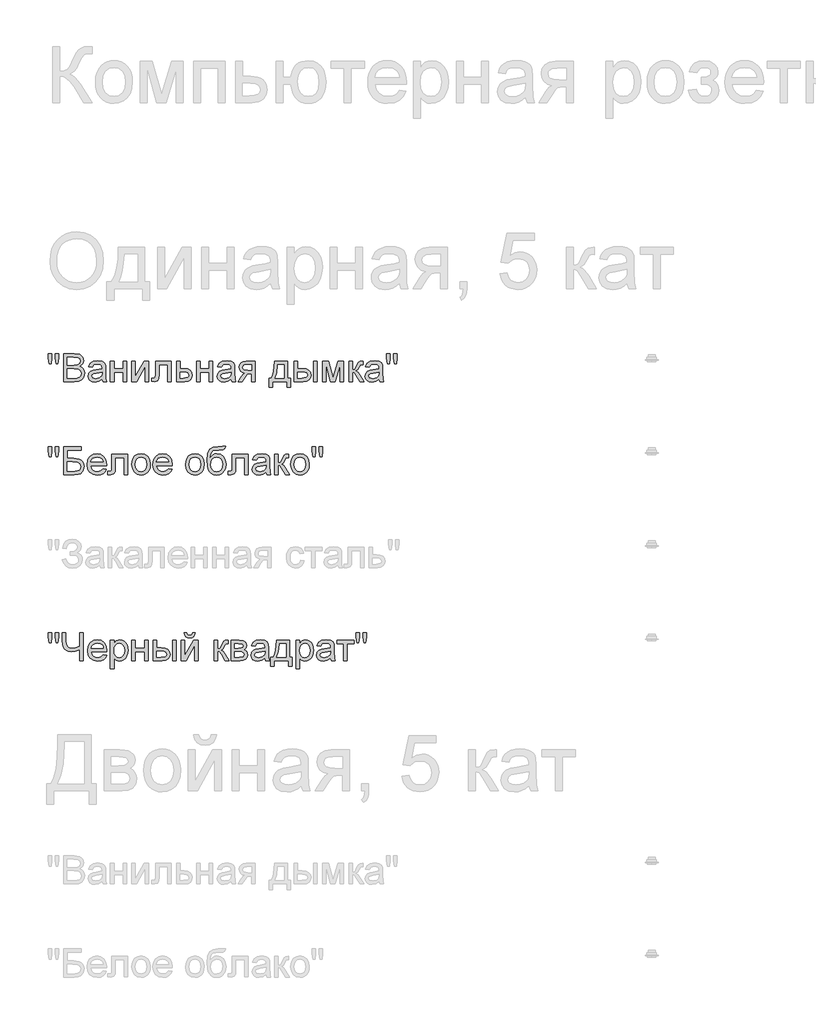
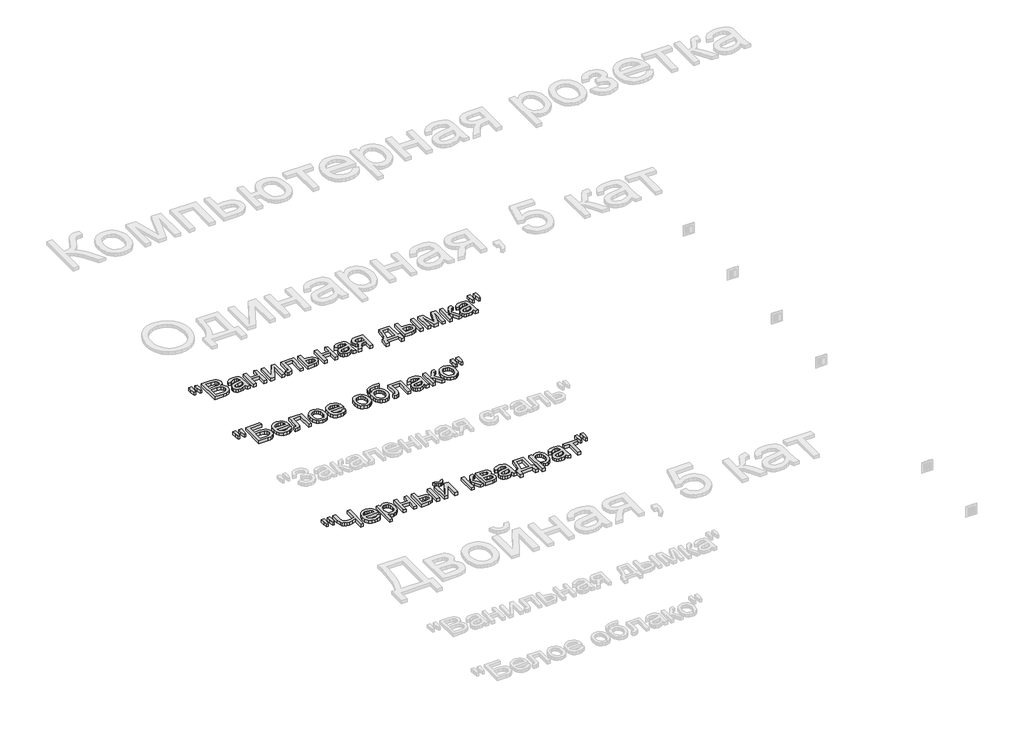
# One storey, part 166 of 168: 3 proxies.
"""IFC4 building model written with IfcOpenShell, lengths in millimetres."""

import ifcopenshell
import ifcopenshell.guid

model = None  # the IFC model being written
_history = None  # IfcOwnerHistory: only IFC2X3 demands one
_inside = {}  # id of a spatial element -> (the spatial element, [elements in it])
_under = {}  # id of a project, library or spatial element -> (it, [spatial elements below it])
_declared = {}  # id of a project -> (the project, [libraries it declares])
_typed = {}  # id of a type object -> (the type object, [elements of that type])
_made_of = {}  # id of a material, layer set ... -> (it, [elements and type objects made of it])


def new_model(schema):
    """Start an empty IFC model of exactly this schema.

    Asked for "IFC4X3", IfcOpenShell would pick the latest addendum, in which some entities
    have other attributes; the version numbers below select the first issue.
    IFC2X3 requires an IfcOwnerHistory on every rooted entity: one is made here for all.
    """
    global model, _history
    if schema == "IFC4X3":
        model = ifcopenshell.file(schema_version=(4, 3, 0, 0))
    else:
        model = ifcopenshell.file(schema=schema)
    _inside.clear()
    _under.clear()
    _declared.clear()
    _typed.clear()
    _made_of.clear()
    _history = None
    if model.schema == "IFC2X3":
        org = make("IfcOrganization", Name="unknown")
        user = make(
            "IfcPersonAndOrganization",
            ThePerson=make("IfcPerson", FamilyName="unknown"),
            TheOrganization=org,
        )
        app = make(
            "IfcApplication",
            ApplicationDeveloper=org,
            Version="unknown",
            ApplicationFullName="unknown",
            ApplicationIdentifier="unknown",
        )
        _history = make(
            "IfcOwnerHistory",
            OwningUser=user,
            OwningApplication=app,
            ChangeAction="ADDED",
            CreationDate=0,
        )
    return model


def make(cls, **values):
    """One entity of the class cls with the attributes given. An attribute that is None is left unset."""
    return model.create_entity(
        cls, **{name: value for name, value in values.items() if value is not None}
    )


def rooted(cls, **values):
    """An entity with a GlobalId (a new one), such as an element, a storey or a relation."""
    return make(cls, GlobalId=ifcopenshell.guid.new(), OwnerHistory=_history, **values)


def si_unit(unit_type, name, prefix=None):
    """IfcSIUnit, for example si_unit("LENGTHUNIT", "METRE", prefix="MILLI")."""
    return make("IfcSIUnit", UnitType=unit_type, Prefix=prefix, Name=name)


def assignment(units):
    """IfcUnitAssignment: the units of a project."""
    return None if units is None else make("IfcUnitAssignment", Units=units)


def point(xyz):
    """IfcCartesianPoint."""
    return None if xyz is None else make("IfcCartesianPoint", Coordinates=xyz)


def direction(xyz):
    """IfcDirection."""
    return None if xyz is None else make("IfcDirection", DirectionRatios=xyz)


def frame(location, z_axis=None, x_axis=None):
    """IfcAxis2Placement3D, a coordinate frame: its origin and axes. An axis left out is left unset."""
    return make(
        "IfcAxis2Placement3D",
        Location=point(location),
        Axis=direction(z_axis),
        RefDirection=direction(x_axis),
    )


def origin():
    """The frame at (0, 0, 0) with its axes left unset."""
    return frame((0.0, 0.0, 0.0))


def origin_with_axes():
    """The frame at (0, 0, 0) with the z axis (0, 0, 1) and the x axis (1, 0, 0) written out."""
    return frame((0.0, 0.0, 0.0), z_axis=(0.0, 0.0, 1.0), x_axis=(1.0, 0.0, 0.0))


def place(relative_to, where):
    """IfcLocalPlacement: puts the frame where relative to a parent placement (None: the world)."""
    return make(
        "IfcLocalPlacement", PlacementRelTo=relative_to, RelativePlacement=where
    )


def context(
    kind, dimensions, precision=None, world=None, true_north=None, identifier=None
):
    """IfcGeometricRepresentationContext, for example the 3D "Model" context."""
    return make(
        "IfcGeometricRepresentationContext",
        ContextIdentifier=identifier,
        ContextType=kind,
        CoordinateSpaceDimension=dimensions,
        Precision=precision,
        WorldCoordinateSystem=world,
        TrueNorth=true_north,
    )


def project(units=None, contexts=None):
    """IfcProject with its units and contexts."""
    return rooted(
        "IfcProject",
        Name="project",
        RepresentationContexts=contexts,
        UnitsInContext=assignment(units),
    )


def spatial(cls, under=None, at=None, **own):
    """A site, building, storey or space (cls), placed at a placement, below another one or the project."""
    s = rooted(cls, ObjectPlacement=at, **own)
    if under is not None:
        _under.setdefault(under.id(), (under, []))[1].append(s)
    return s


def polyline(points):
    """IfcPolyline through the points."""
    return make("IfcPolyline", Points=[point(p) for p in points])


def outline(outer, holes=None, kind="AREA"):
    """IfcArbitraryClosedProfileDef: a profile drawn as a closed curve; with holes, ...WithVoids."""
    if holes is None:
        return make("IfcArbitraryClosedProfileDef", ProfileType=kind, OuterCurve=outer)
    return make(
        "IfcArbitraryProfileDefWithVoids",
        ProfileType=kind,
        OuterCurve=outer,
        InnerCurves=holes,
    )


def extrude(swept, where, along, depth):
    """IfcExtrudedAreaSolid: the profile swept, set in the frame where, extruded along a direction by depth."""
    return make(
        "IfcExtrudedAreaSolid",
        SweptArea=swept,
        Position=where,
        ExtrudedDirection=direction(along),
        Depth=depth,
    )


def shape(context_of_items, identifier, shape_type, items):
    """IfcShapeRepresentation: the items that make up one representation, for example the "Body"."""
    return make(
        "IfcShapeRepresentation",
        ContextOfItems=context_of_items,
        RepresentationIdentifier=identifier,
        RepresentationType=shape_type,
        Items=items,
    )


def made_of(thing, what):
    """Note that an element or type object is made of a material, layer set ...; save() writes the relation."""
    if what is not None:
        _made_of.setdefault(what.id(), (what, []))[1].append(thing)
    return thing


def element(
    cls,
    number,
    at=None,
    inside=None,
    cuts=None,
    type_object=None,
    material=None,
    context=None,
    identifier="Body",
    shape_type=None,
    held_by="IfcProductDefinitionShape",
    body=None,
    shapes=None,
    **own,
):
    """One element of the class cls, such as IfcWall. Its Tag is "e" and its number.

    at: its placement. inside: the storey or other place that contains it. cuts: it is an
    opening in that element (IfcRelVoidsElement). A single representation is given by context,
    identifier, shape_type and body (its items); several are given by shapes. held_by: the class
    of the entity that holds the representations. save() writes the other relations.
    """
    e = rooted(cls, Tag="e%d" % number, ObjectPlacement=at, **own)
    if body is not None:
        shapes = [shape(context, identifier, shape_type, body)]
    if shapes is not None:
        e.Representation = make(held_by, Representations=shapes)
    if inside is not None:
        _inside.setdefault(inside.id(), (inside, []))[1].append(e)
    if cuts is not None:
        rooted(
            "IfcRelVoidsElement", RelatingBuildingElement=cuts, RelatedOpeningElement=e
        )
    if type_object is not None:
        _typed.setdefault(type_object.id(), (type_object, []))[1].append(e)
    return made_of(e, material)


def aggregate(whole, parts):
    """IfcRelAggregates: a whole, such as a stair, and the parts it consists of."""
    return rooted("IfcRelAggregates", RelatingObject=whole, RelatedObjects=parts)


def save(model, path):
    """Write the relations noted so far, then the file.

    IfcRelAggregates (storeys below a building ...), IfcRelContainedInSpatialStructure (elements
    in a storey), IfcRelDefinesByType, IfcRelAssociatesMaterial and IfcRelDeclares: one each for
    every whole, place, type object, material and project.
    """
    for whole, parts in _under.values():
        aggregate(whole, parts)
    for where, things in _inside.values():
        rooted(
            "IfcRelContainedInSpatialStructure",
            RelatedElements=things,
            RelatingStructure=where,
        )
    for kind, things in _typed.values():
        rooted("IfcRelDefinesByType", RelatedObjects=things, RelatingType=kind)
    for what, things in _made_of.values():
        rooted("IfcRelAssociatesMaterial", RelatedObjects=things, RelatingMaterial=what)
    for by, libraries in _declared.values():
        rooted("IfcRelDeclares", RelatingContext=by, RelatedDefinitions=libraries)
    model.write(path)


model = new_model("IFC4")

# Units and contexts
model_context = context("Model", 3, world=origin())
ifc_project = project(units=[si_unit("LENGTHUNIT", "METRE", prefix="MILLI")], contexts=[model_context])

# Site, building, storey
site = spatial("IfcSite", under=ifc_project)
building = spatial("IfcBuilding", under=site)
storey = spatial("IfcBuildingStorey", under=building, Name="Этаж 01", Elevation=0.0)

# Proxies
placement = place(None, origin())
element("IfcBuildingElementProxy", 1, Name="150", ObjectType="150", at=placement, inside=storey, context=model_context, shape_type="SweptSolid", body=[
    extrude(outline(polyline([(77280.1485789, -6451.873446), (77275.550054, -6422.7739802), (77275.550054, -6397.7212163), (77294.3856121, -6397.7212163), (77294.3856121, -6422.7739802), (77290.2653338, -6451.873446), (77280.1485789, -6451.873446)])), origin_with_axes(), (0.0, 0.0, 1.0), 20.0),
    extrude(outline(polyline([(77317.7093306, -6451.873446), (77313.2211703, -6422.7739802), (77313.2211703, -6397.7212163), (77332.0567284, -6397.7212163), (77332.0567284, -6422.7739802), (77327.6421445, -6451.873446), (77317.7093306, -6451.873446)])), origin_with_axes(), (0.0, 0.0, 1.0), 20.0),
    extrude(outline(polyline([(77357.9556209, -6548.4056816), (77357.9556209, -6397.7212163), (77415.4555767, -6397.7212163), (77443.6169435, -6402.1541944), (77453.0807078, -6407.7781904), (77460.2452096, -6415.7842223), (77466.2600803, -6435.0612389), (77461.2017028, -6452.6643923), (77445.9162059, -6466.0001146), (77456.5893823, -6471.5735269), (77464.4758526, -6480.0532069), (77469.3456905, -6490.8781346), (77470.9689698, -6503.48729), (77466.5359918, -6523.7391938), (77455.5547142, -6538.160168), (77439.1655713, -6545.8121135), (77415.0141183, -6548.4056816), (77357.9556209, -6548.4056816)]), holes=[polyline([(77376.791179, -6458.9367803), (77411.1881456, -6458.9367803), (77431.2745025, -6457.3180996), (77443.3594261, -6450.3467358), (77447.4245221, -6438.0778712), (77443.6353376, -6425.7906126), (77432.7828187, -6418.5249432), (77408.5761834, -6416.5567745), (77376.791179, -6416.5567745), (77376.791179, -6458.9367803)]), polyline([(77376.791179, -6529.5701234), (77415.4187885, -6529.5701234), (77429.3983043, -6528.8343594), (77441.2257105, -6524.7324752), (77449.061597, -6516.3631598), (77452.1334117, -6503.671231), (77448.5281681, -6489.0295275), (77436.8479148, -6480.2923302), (77413.5793786, -6477.7723385), (77376.791179, -6477.7723385), (77376.791179, -6529.5701234)])]), origin_with_axes(), (0.0, 0.0, 1.0), 20.0),
    extrude(outline(polyline([(77565.1467606, -6534.279013), (77546.8814195, -6547.0445182), (77526.7030921, -6550.7601263), (77510.9623412, -6548.5252432), (77499.3510657, -6541.8205939), (77492.1911624, -6531.6394596), (77489.804528, -6518.975122), (77493.4097715, -6504.0759012), (77502.8827329, -6493.2601705), (77516.0713024, -6487.079753), (77532.3684748, -6484.2470616), (77565.036396, -6477.7723385), (77565.1467606, -6473.5784838), (77563.8499765, -6465.1723802), (77559.9596244, -6459.6725443), (77551.2592153, -6455.5890542), (77539.1375035, -6454.2278908), (77520.0812162, -6457.8515285), (77510.9945309, -6470.7090042), (77492.1589727, -6468.3545594), (77500.3075589, -6449.9604597), (77516.7150959, -6439.1815172), (77541.5655247, -6435.3923327), (77564.3926025, -6438.7400588), (77577.2868664, -6447.1461624), (77583.0626137, -6459.9300617), (77583.9823187, -6476.4111751), (77583.9823187, -6499.8452582), (77584.9388119, -6532.5683617), (77588.6912083, -6548.4056816), (77569.8556501, -6548.4056816), (77565.1467606, -6534.279013)]), holes=[polyline([(77565.1467606, -6496.6078966), (77534.7597078, -6502.383644), (77518.5545059, -6505.4370645), (77511.2152601, -6510.4034715), (77508.6400861, -6517.6507468), (77514.2502865, -6527.841078), (77530.7130058, -6531.9245682), (77549.7692932, -6527.4180137), (77562.0565518, -6516.5103126), (77565.036396, -6501.9421856), (77565.1467606, -6496.6078966)])]), origin_with_axes(), (0.0, 0.0, 1.0), 20.0),
    extrude(outline(polyline([(77609.8812112, -6437.7467774), (77628.7167693, -6437.7467774), (77628.7167693, -6480.1267833), (77678.1601095, -6480.1267833), (77678.1601095, -6437.7467774), (77696.9956676, -6437.7467774), (77696.9956676, -6548.4056816), (77678.1601095, -6548.4056816), (77678.1601095, -6498.9623414), (77628.7167693, -6498.9623414), (77628.7167693, -6548.4056816), (77609.8812112, -6548.4056816), (77609.8812112, -6437.7467774)])), origin_with_axes(), (0.0, 0.0, 1.0), 20.0),
    extrude(outline(polyline([(77725.2490049, -6437.7467774), (77744.084563, -6437.7467774), (77744.084563, -6522.1389071), (77790.364118, -6437.7467774), (77814.7179061, -6437.7467774), (77814.7179061, -6548.4056816), (77795.8823479, -6548.4056816), (77795.8823479, -6464.5285867), (77749.8970985, -6548.4056816), (77725.2490049, -6548.4056816), (77725.2490049, -6437.7467774)])), origin_with_axes(), (0.0, 0.0, 1.0), 20.0),
    extrude(outline(polyline([(77852.3890224, -6437.7467774), (77937.1490341, -6437.7467774), (77937.1490341, -6548.295317), (77918.3134759, -6548.295317), (77918.3134759, -6456.5823356), (77871.2245806, -6456.5823356), (77871.2245806, -6509.3734019), (77869.9553877, -6533.72719), (77862.9840239, -6544.0094917), (77846.5029105, -6548.4056816), (77831.1990195, -6547.4491884), (77831.1990195, -6529.5701234), (77839.6235172, -6529.5701234), (77848.1399854, -6528.4112951), (77851.5428938, -6524.7324752), (77852.3890224, -6508.3065441), (77852.3890224, -6437.7467774)])), origin_with_axes(), (0.0, 0.0, 1.0), 20.0),
    extrude(outline(polyline([(77965.4023713, -6437.7467774), (77984.2379295, -6437.7467774), (77984.2379295, -6477.7723385), (78005.9429672, -6477.7723385), (78024.7601312, -6480.1313818), (78038.6844648, -6487.2085117), (78047.2929034, -6498.433511), (78050.162383, -6513.2361628), (78047.7205663, -6526.7144394), (78040.395116, -6538.0865916), (78027.6985887, -6545.8259091), (78009.1435405, -6548.4056816), (77965.4023713, -6548.4056816), (77965.4023713, -6437.7467774)]), holes=[polyline([(77984.2379295, -6529.5701234), (78001.8226888, -6529.5701234), (78024.539402, -6525.615392), (78029.6299692, -6520.552416), (78031.3268249, -6513.272951), (78026.3052356, -6501.6846682), (78018.2348244, -6497.8770895), (78004.066769, -6496.6078966), (77984.2379295, -6496.6078966), (77984.2379295, -6529.5701234)])]), origin_with_axes(), (0.0, 0.0, 1.0), 20.0),
    extrude(outline(polyline([(78073.7068307, -6437.7467774), (78092.5423889, -6437.7467774), (78092.5423889, -6480.1267833), (78141.985729, -6480.1267833), (78141.985729, -6437.7467774), (78160.8212872, -6437.7467774), (78160.8212872, -6548.4056816), (78141.985729, -6548.4056816), (78141.985729, -6498.9623414), (78092.5423889, -6498.9623414), (78092.5423889, -6548.4056816), (78073.7068307, -6548.4056816), (78073.7068307, -6437.7467774)])), origin_with_axes(), (0.0, 0.0, 1.0), 20.0),
    extrude(outline(polyline([(78259.7079675, -6534.279013), (78241.4426264, -6547.0445182), (78221.264299, -6550.7601263), (78205.5235481, -6548.5252432), (78193.9122726, -6541.8205939), (78186.7523693, -6531.6394596), (78184.3657349, -6518.975122), (78187.9709784, -6504.0759012), (78197.4439398, -6493.2601705), (78210.6325093, -6487.079753), (78226.9296817, -6484.2470616), (78259.5976029, -6477.7723385), (78259.7079675, -6473.5784838), (78258.4111834, -6465.1723802), (78254.5208313, -6459.6725443), (78245.8204221, -6455.5890542), (78233.6987104, -6454.2278908), (78214.6424231, -6457.8515285), (78205.5557378, -6470.7090042), (78186.7201796, -6468.3545594), (78194.8687658, -6449.9604597), (78211.2763028, -6439.1815172), (78236.1267316, -6435.3923327), (78258.9538094, -6438.7400588), (78271.8480733, -6447.1461624), (78277.6238206, -6459.9300617), (78278.5435256, -6476.4111751), (78278.5435256, -6499.8452582), (78279.5000188, -6532.5683617), (78283.2524152, -6548.4056816), (78264.416857, -6548.4056816), (78259.7079675, -6534.279013)]), holes=[polyline([(78259.7079675, -6496.6078966), (78229.3209147, -6502.383644), (78213.1157128, -6505.4370645), (78205.776467, -6510.4034715), (78203.201293, -6517.6507468), (78208.8114934, -6527.841078), (78225.2742127, -6531.9245682), (78244.3305001, -6527.4180137), (78256.6177587, -6516.5103126), (78259.5976029, -6501.9421856), (78259.7079675, -6496.6078966)])]), origin_with_axes(), (0.0, 0.0, 1.0), 20.0),
    extrude(outline(polyline([(78389.2024298, -6437.7467774), (78389.2024298, -6548.4056816), (78370.3668716, -6548.4056816), (78370.3668716, -6506.0256757), (78360.1029639, -6506.0256757), (78346.1234481, -6508.4169087), (78332.9900609, -6524.4933519), (78317.9804755, -6548.4056816), (78296.2018614, -6548.4056816), (78315.1109959, -6518.1657816), (78323.4619172, -6507.3132627), (78331.1506509, -6502.4940086), (78318.2747811, -6498.5484742), (78309.224884, -6491.0528785), (78303.872201, -6481.0832765), (78302.0879733, -6469.7157228), (78304.5251915, -6456.8214589), (78311.8368462, -6446.6127335), (78323.7654199, -6439.9632664), (78340.0533952, -6437.7467774), (78389.2024298, -6437.7467774)]), holes=[polyline([(78370.3668716, -6456.5823356), (78345.5348369, -6456.5823356), (78332.7095509, -6457.672186), (78325.4300859, -6460.9417372), (78320.9235315, -6471.1504626), (78322.583599, -6478.32876), (78327.5638015, -6483.3089625), (78351.0898551, -6487.1901176), (78370.3668716, -6487.1901176), (78370.3668716, -6456.5823356)])]), origin_with_axes(), (0.0, 0.0, 1.0), 20.0),
    extrude(outline(polyline([(78492.7979996, -6437.7467774), (78563.4313427, -6437.7467774), (78563.4313427, -6529.5701234), (78577.5580113, -6529.5701234), (78577.5580113, -6579.0134636), (78558.7224531, -6579.0134636), (78558.7224531, -6548.4056816), (78481.0257758, -6548.4056816), (78481.0257758, -6579.0134636), (78462.1902176, -6579.0134636), (78462.1902176, -6529.5701234), (78473.9624415, -6529.5701234), (78482.5202964, -6514.105284), (78488.5121744, -6493.6464466), (78492.7979996, -6437.7467774)]), holes=[polyline([(78509.279113, -6456.5823356), (78504.864529, -6499.4957703), (78495.1524444, -6529.5701234), (78544.5957845, -6529.5701234), (78544.5957845, -6456.5823356), (78509.279113, -6456.5823356)])]), origin_with_axes(), (0.0, 0.0, 1.0), 20.0),
    extrude(outline(polyline([(78702.3435841, -6437.7467774), (78721.1791422, -6437.7467774), (78721.1791422, -6548.4056816), (78702.3435841, -6548.4056816), (78702.3435841, -6437.7467774)])), origin_with_axes(), (0.0, 0.0, 1.0), 20.0),
    extrude(outline(polyline([(78598.7480142, -6437.7467774), (78617.5835724, -6437.7467774), (78617.5835724, -6477.7723385), (78640.8705027, -6477.7723385), (78660.9982463, -6480.1313818), (78675.9112627, -6487.2085117), (78685.1405023, -6498.433511), (78688.2169154, -6513.2361628), (78685.637143, -6526.7144394), (78677.8978255, -6538.0865916), (78664.4931253, -6545.8259091), (78644.9172046, -6548.4056816), (78598.7480142, -6548.4056816), (78598.7480142, -6437.7467774)]), holes=[polyline([(78617.5835724, -6529.5701234), (78636.9341653, -6529.5701234), (78661.9133528, -6525.615392), (78667.5143562, -6520.552416), (78669.3813573, -6513.272951), (78663.8447333, -6501.6846682), (78654.9649816, -6497.8770895), (78639.3989747, -6496.6078966), (78617.5835724, -6496.6078966), (78617.5835724, -6529.5701234)])]), origin_with_axes(), (0.0, 0.0, 1.0), 20.0),
    extrude(outline(polyline([(78749.4324794, -6437.7467774), (78781.8428832, -6437.7467774), (78806.8220707, -6526.3327619), (78833.7510327, -6437.7467774), (78864.8002731, -6437.7467774), (78864.8002731, -6548.4056816), (78845.964715, -6548.4056816), (78845.964715, -6459.3046623), (78818.8886001, -6548.4056816), (78794.1669301, -6548.4056816), (78768.2680376, -6455.0372312), (78768.2680376, -6548.4056816), (78749.4324794, -6548.4056816), (78749.4324794, -6437.7467774)])), origin_with_axes(), (0.0, 0.0, 1.0), 20.0),
    extrude(outline(polyline([(78893.0536104, -6437.7467774), (78911.8891685, -6437.7467774), (78911.8891685, -6484.8356728), (78924.5075209, -6481.4511584), (78934.845005, -6461.7326835), (78943.4350496, -6444.7181412), (78951.0134187, -6439.1815172), (78964.7905994, -6437.7467774), (78968.395843, -6437.7467774), (78968.395843, -6456.6927002), (78963.3190714, -6456.5823356), (78954.1220216, -6458.5688983), (78947.6472984, -6470.9665216), (78940.0505352, -6484.3758203), (78929.4003515, -6490.9425139), (78941.2829399, -6498.2725627), (78952.9447992, -6513.7144094), (78973.1047325, -6548.4056816), (78951.6940004, -6548.4056816), (78931.9387373, -6514.4501734), (78922.0059234, -6500.0843815), (78911.8891685, -6496.6078966), (78911.8891685, -6548.4056816), (78893.0536104, -6548.4056816), (78893.0536104, -6437.7467774)])), origin_with_axes(), (0.0, 0.0, 1.0), 20.0),
    extrude(outline(polyline([(79055.5102994, -6534.279013), (79037.2449584, -6547.0445182), (79017.0666309, -6550.7601263), (79001.3258801, -6548.5252432), (78989.7146046, -6541.8205939), (78982.5547013, -6531.6394596), (78980.1680668, -6518.975122), (78983.7733104, -6504.0759012), (78993.2462717, -6493.2601705), (79006.4348413, -6487.079753), (79022.7320137, -6484.2470616), (79055.3999348, -6477.7723385), (79055.5102994, -6473.5784838), (79054.2135154, -6465.1723802), (79050.3231633, -6459.6725443), (79041.6227541, -6455.5890542), (79029.5010424, -6454.2278908), (79010.444755, -6457.8515285), (79001.3580697, -6470.7090042), (78982.5225116, -6468.3545594), (78990.6710978, -6449.9604597), (79007.0786348, -6439.1815172), (79031.9290635, -6435.3923327), (79054.7561413, -6438.7400588), (79067.6504053, -6447.1461624), (79073.4261526, -6459.9300617), (79074.3458576, -6476.4111751), (79074.3458576, -6499.8452582), (79075.3023508, -6532.5683617), (79079.0547471, -6548.4056816), (79060.219189, -6548.4056816), (79055.5102994, -6534.279013)]), holes=[polyline([(79055.5102994, -6496.6078966), (79025.1232466, -6502.383644), (79008.9180447, -6505.4370645), (79001.5787989, -6510.4034715), (78999.003625, -6517.6507468), (79004.6138254, -6527.841078), (79021.0765447, -6531.9245682), (79040.132832, -6527.4180137), (79052.4200907, -6516.5103126), (79055.3999348, -6501.9421856), (79055.5102994, -6496.6078966)])]), origin_with_axes(), (0.0, 0.0, 1.0), 20.0),
    extrude(outline(polyline([(79100.1343854, -6451.873446), (79095.5358605, -6422.7739802), (79095.5358605, -6397.7212163), (79114.3714187, -6397.7212163), (79114.3714187, -6422.7739802), (79110.2511403, -6451.873446), (79100.1343854, -6451.873446)])), origin_with_axes(), (0.0, 0.0, 1.0), 20.0),
    extrude(outline(polyline([(79137.6951372, -6451.873446), (79133.2069768, -6422.7739802), (79133.2069768, -6397.7212163), (79152.042535, -6397.7212163), (79152.042535, -6422.7739802), (79147.627951, -6451.873446), (79137.6951372, -6451.873446)])), origin_with_axes(), (0.0, 0.0, 1.0), 20.0),
])
element("IfcBuildingElementProxy", 2, Name="150", ObjectType="150", at=placement, inside=storey, context=model_context, shape_type="SweptSolid", body=[
    extrude(outline(polyline([(77280.1485789, -6951.873446), (77275.550054, -6922.7739802), (77275.550054, -6897.7212163), (77294.3856121, -6897.7212163), (77294.3856121, -6922.7739802), (77290.2653338, -6951.873446), (77280.1485789, -6951.873446)])), origin_with_axes(), (0.0, 0.0, 1.0), 20.0),
    extrude(outline(polyline([(77317.7093306, -6951.873446), (77313.2211703, -6922.7739802), (77313.2211703, -6897.7212163), (77332.0567284, -6897.7212163), (77332.0567284, -6922.7739802), (77327.6421445, -6951.873446), (77317.7093306, -6951.873446)])), origin_with_axes(), (0.0, 0.0, 1.0), 20.0),
    extrude(outline(polyline([(77357.9556209, -6897.7212163), (77452.1334117, -6897.7212163), (77452.1334117, -6916.5567745), (77376.791179, -6916.5567745), (77376.791179, -6961.2912251), (77412.0710624, -6961.2912251), (77443.157091, -6965.1171979), (77453.5589544, -6970.6446248), (77461.6615553, -6979.5749603), (77466.8762826, -6991.0712726), (77468.614525, -7004.2966303), (77463.6665122, -7025.7625448), (77448.8960501, -7042.0781113), (77435.6247071, -7046.823789), (77415.4555767, -7048.4056816), (77357.9556209, -7048.4056816), (77357.9556209, -6897.7212163)]), holes=[polyline([(77376.791179, -7029.5701234), (77417.1478339, -7029.5701234), (77431.4124583, -7028.015822), (77441.6119866, -7023.3529177), (77447.7372218, -7015.5814105), (77449.7789669, -7004.7013005), (77445.1068655, -6989.9492325), (77432.102237, -6982.0765578), (77403.7201411, -6980.1267833), (77376.791179, -6980.1267833), (77376.791179, -7029.5701234)])]), origin_with_axes(), (0.0, 0.0, 1.0), 20.0),
    extrude(outline(polyline([(77569.6349209, -7015.4434548), (77588.1025971, -7017.7978996), (77581.4485315, -7031.713036), (77570.8305374, -7042.1148995), (77556.4877381, -7048.5988196), (77538.6592569, -7050.7601263), (77516.5587461, -7047.0307226), (77499.5534008, -7035.8425114), (77488.710079, -7017.9220597), (77485.0956384, -6993.9959345), (77488.7468672, -6969.2650674), (77499.7005536, -6950.7698), (77516.4759726, -6939.2366995), (77537.5923991, -6935.3923327), (77558.0512366, -6939.2275025), (77574.3989927, -6950.7330118), (77585.1181544, -6969.191491), (77588.6912083, -6993.8855699), (77588.5808437, -6998.9623414), (77503.9311966, -6998.9623414), (77507.1915508, -7013.0614189), (77514.7653213, -7023.4264941), (77525.6960151, -7029.8000497), (77539.0271389, -7031.9245682), (77557.4948151, -7027.9882308), (77569.6349209, -7015.4434548)]), holes=[polyline([(77503.9311966, -6980.1267833), (77569.8556501, -6980.1267833), (77567.3080673, -6970.1755753), (77562.3140692, -6963.0570587), (77551.3327917, -6956.4351828), (77537.5188227, -6954.2278908), (77524.8222954, -6955.9891259), (77514.3238629, -6961.272831), (77507.0260039, -6969.5087892), (77503.9311966, -6980.1267833)])]), origin_with_axes(), (0.0, 0.0, 1.0), 20.0),
    extrude(outline(polyline([(77616.9445455, -6937.7467774), (77701.7045572, -6937.7467774), (77701.7045572, -7048.295317), (77682.868999, -7048.295317), (77682.868999, -6956.5823356), (77635.7801036, -6956.5823356), (77635.7801036, -7009.3734019), (77634.5109108, -7033.72719), (77627.539547, -7044.0094917), (77611.0584336, -7048.4056816), (77595.7545426, -7047.4491884), (77595.7545426, -7029.5701234), (77604.1790403, -7029.5701234), (77612.6955084, -7028.4112951), (77616.0984169, -7024.7324752), (77616.9445455, -7008.3065441), (77616.9445455, -6937.7467774)])), origin_with_axes(), (0.0, 0.0, 1.0), 20.0),
    extrude(outline(polyline([(77725.2490049, -6993.0762295), (77729.323298, -6966.3955878), (77741.5461773, -6947.6428031), (77756.6477332, -6938.4549503), (77774.7291332, -6935.3923327), (77794.516586, -6939.1217364), (77810.3217163, -6950.3099476), (77820.6821929, -6968.0740494), (77824.1356852, -6991.5311251), (77822.6089749, -7010.5598213), (77818.0288441, -7025.0451749), (77810.5286499, -7035.8930952), (77800.2417496, -7044.0094917), (77788.0234688, -7049.0724677), (77774.7291332, -7050.7601263), (77754.7025571, -7047.0445182), (77738.915821, -7035.8976937), (77728.6657089, -7017.7611114), (77725.2490049, -6993.0762295)]), holes=[polyline([(77744.084563, -6993.0394413), (77746.2642638, -7010.0861732), (77752.8033663, -7022.2308776), (77762.6442097, -7029.5011455), (77774.7291332, -7031.9245682), (77786.7588745, -7029.48735), (77796.5813237, -7022.1756953), (77803.1204262, -7009.8700426), (77805.300127, -6992.4508301), (77803.1066306, -6975.9007388), (77796.5261414, -6963.9215814), (77786.6898966, -6956.6513134), (77774.7291332, -6954.2278908), (77762.6442097, -6956.6421164), (77752.8033663, -6963.8847932), (77746.2642638, -6976.0019064), (77744.084563, -6993.0394413)])]), origin_with_axes(), (0.0, 0.0, 1.0), 20.0),
    extrude(outline(polyline([(77922.8016363, -7015.4434548), (77941.2693124, -7017.7978996), (77934.6152469, -7031.713036), (77923.9972528, -7042.1148995), (77909.6544535, -7048.5988196), (77891.8259723, -7050.7601263), (77869.7254614, -7047.0307226), (77852.7201162, -7035.8425114), (77841.8767944, -7017.9220597), (77838.2623538, -6993.9959345), (77841.9135826, -6969.2650674), (77852.867269, -6950.7698), (77869.642688, -6939.2366995), (77890.7591145, -6935.3923327), (77911.217952, -6939.2275025), (77927.5657081, -6950.7330118), (77938.2848698, -6969.191491), (77941.8579236, -6993.8855699), (77941.747559, -6998.9623414), (77857.0979119, -6998.9623414), (77860.3582661, -7013.0614189), (77867.9320367, -7023.4264941), (77878.8627305, -7029.8000497), (77892.1938543, -7031.9245682), (77910.6615304, -7027.9882308), (77922.8016363, -7015.4434548)]), holes=[polyline([(77857.0979119, -6980.1267833), (77923.0223655, -6980.1267833), (77920.4747827, -6970.1755753), (77915.4807846, -6963.0570587), (77904.499507, -6956.4351828), (77890.6855381, -6954.2278908), (77877.9890107, -6955.9891259), (77867.4905783, -6961.272831), (77860.1927192, -6969.5087892), (77857.0979119, -6980.1267833)])]), origin_with_axes(), (0.0, 0.0, 1.0), 20.0),
    extrude(outline(polyline([(78014.8457115, -6993.0762295), (78018.9200046, -6966.3955878), (78031.1428839, -6947.6428031), (78046.2444398, -6938.4549503), (78064.3258398, -6935.3923327), (78084.1132926, -6939.1217364), (78099.9184229, -6950.3099476), (78110.2788995, -6968.0740494), (78113.7323918, -6991.5311251), (78112.2056815, -7010.5598213), (78107.6255507, -7025.0451749), (78100.1253565, -7035.8930952), (78089.8384562, -7044.0094917), (78077.6201754, -7049.0724677), (78064.3258398, -7050.7601263), (78044.2992637, -7047.0445182), (78028.5125276, -7035.8976937), (78018.2624155, -7017.7611114), (78014.8457115, -6993.0762295)]), holes=[polyline([(78033.6812696, -6993.0394413), (78035.8609704, -7010.0861732), (78042.4000729, -7022.2308776), (78052.2409163, -7029.5011455), (78064.3258398, -7031.9245682), (78076.3555811, -7029.48735), (78086.1780303, -7022.1756953), (78092.7171328, -7009.8700426), (78094.8968336, -6992.4508301), (78092.7033372, -6975.9007388), (78086.122848, -6963.9215814), (78076.2866032, -6956.6513134), (78064.3258398, -6954.2278908), (78052.2409163, -6956.6421164), (78042.4000729, -6963.8847932), (78035.8609704, -6976.0019064), (78033.6812696, -6993.0394413)])]), origin_with_axes(), (0.0, 0.0, 1.0), 20.0),
    extrude(outline(polyline([(78212.6190721, -6895.3667716), (78229.1001855, -6895.3667716), (78224.2441431, -6910.0636573), (78214.6424231, -6915.3795521), (78191.576222, -6916.5567745), (78160.5085875, -6920.897782), (78153.3808738, -6926.5447707), (78148.5892108, -6934.8037215), (78144.560903, -6959.4150269), (78160.8764695, -6941.3888092), (78170.7954878, -6936.8914518), (78181.9009255, -6935.3923327), (78201.4998388, -6939.2045098), (78217.401538, -6950.6410414), (78227.9413572, -6968.5798871), (78231.4546302, -6991.8990071), (78229.7117893, -7009.8792396), (78224.4832664, -7024.3094109), (78207.9469707, -7043.8623389), (78196.6529935, -7049.0356795), (78181.9009255, -7050.7601263), (78164.9001788, -7048.5390388), (78152.1576662, -7041.8757762), (78142.7812738, -7031.7498242), (78135.8788879, -7019.1406689), (78131.6298508, -7000.1533594), (78130.2135052, -6970.8929452), (78133.786559, -6934.7531377), (78144.5057207, -6912.7124076), (78162.6377045, -6901.4690142), (78188.449225, -6897.7212163), (78209.4184987, -6897.2981521), (78212.6190721, -6895.3667716)]), holes=[polyline([(78212.6190721, -6991.3103959), (78210.577327, -6976.48935), (78204.4520918, -6964.6205572), (78194.6112484, -6956.8260574), (78181.4226789, -6954.2278908), (78167.6730893, -6956.9732102), (78157.473561, -6965.2091684), (78151.1551877, -6978.0344544), (78149.0490633, -6994.5477575), (78151.3759169, -7010.5552228), (78158.3564778, -7022.304454), (78168.7491442, -7029.5195396), (78181.3123143, -7031.9245682), (78193.9398638, -7029.1424606), (78203.937057, -7020.7961378), (78210.4485683, -7007.8604872), (78212.6190721, -6991.3103959)])]), origin_with_axes(), (0.0, 0.0, 1.0), 20.0),
    extrude(outline(polyline([(78264.416857, -6937.7467774), (78349.1768687, -6937.7467774), (78349.1768687, -7048.295317), (78330.3413105, -7048.295317), (78330.3413105, -6956.5823356), (78283.2524152, -6956.5823356), (78283.2524152, -7009.3734019), (78281.9832223, -7033.72719), (78275.0118585, -7044.0094917), (78258.5307451, -7048.4056816), (78243.2268541, -7047.4491884), (78243.2268541, -7029.5701234), (78251.6513518, -7029.5701234), (78260.16782, -7028.4112951), (78263.5707284, -7024.7324752), (78264.416857, -7008.3065441), (78264.416857, -6937.7467774)])), origin_with_axes(), (0.0, 0.0, 1.0), 20.0),
    extrude(outline(polyline([(78448.063549, -7034.279013), (78429.7982079, -7047.0445182), (78409.6198805, -7050.7601263), (78393.8791296, -7048.5252432), (78382.2678542, -7041.8205939), (78375.1079508, -7031.6394596), (78372.7213164, -7018.975122), (78376.3265599, -7004.0759012), (78385.7995213, -6993.2601705), (78398.9880908, -6987.079753), (78415.2852632, -6984.2470616), (78447.9531844, -6977.7723385), (78448.063549, -6973.5784838), (78446.766765, -6965.1723802), (78442.8764129, -6959.6725443), (78434.1760037, -6955.5890542), (78422.0542919, -6954.2278908), (78402.9980046, -6957.8515285), (78393.9113193, -6970.7090042), (78375.0757612, -6968.3545594), (78383.2243473, -6949.9604597), (78399.6318843, -6939.1815172), (78424.4823131, -6935.3923327), (78447.3093909, -6938.7400588), (78460.2036548, -6947.1461624), (78465.9794022, -6959.9300617), (78466.8991071, -6976.4111751), (78466.8991071, -6999.8452582), (78467.8556003, -7032.5683617), (78471.6079967, -7048.4056816), (78452.7724385, -7048.4056816), (78448.063549, -7034.279013)]), holes=[polyline([(78448.063549, -6996.6078966), (78417.6764962, -7002.383644), (78401.4712943, -7005.4370645), (78394.1320485, -7010.4034715), (78391.5568745, -7017.6507468), (78397.167075, -7027.841078), (78413.6297942, -7031.9245682), (78432.6860816, -7027.4180137), (78444.9733402, -7016.5103126), (78447.9531844, -7001.9421856), (78448.063549, -6996.6078966)])]), origin_with_axes(), (0.0, 0.0, 1.0), 20.0),
    extrude(outline(polyline([(78492.7979996, -6937.7467774), (78511.6335578, -6937.7467774), (78511.6335578, -6984.8356728), (78524.2519102, -6981.4511584), (78534.5893943, -6961.7326835), (78543.1794388, -6944.7181412), (78550.7578079, -6939.1815172), (78564.5349887, -6937.7467774), (78568.1402322, -6937.7467774), (78568.1402322, -6956.6927002), (78563.0634607, -6956.5823356), (78553.8664108, -6958.5688983), (78547.3916877, -6970.9665216), (78539.7949245, -6984.3758203), (78529.1447407, -6990.9425139), (78541.0273292, -6998.2725627), (78552.6891884, -7013.7144094), (78572.8491218, -7048.4056816), (78551.4383896, -7048.4056816), (78531.6831265, -7014.4501734), (78521.7503126, -7000.0843815), (78511.6335578, -6996.6078966), (78511.6335578, -7048.4056816), (78492.7979996, -7048.4056816), (78492.7979996, -6937.7467774)])), origin_with_axes(), (0.0, 0.0, 1.0), 20.0),
    extrude(outline(polyline([(78579.9124561, -6993.0762295), (78583.9867492, -6966.3955878), (78596.2096285, -6947.6428031), (78611.3111844, -6938.4549503), (78629.3925844, -6935.3923327), (78649.1800372, -6939.1217364), (78664.9851674, -6950.3099476), (78675.3456441, -6968.0740494), (78678.7991364, -6991.5311251), (78677.2724261, -7010.5598213), (78672.6922952, -7025.0451749), (78665.1921011, -7035.8930952), (78654.9052008, -7044.0094917), (78642.68692, -7049.0724677), (78629.3925844, -7050.7601263), (78609.3660083, -7047.0445182), (78593.5792722, -7035.8976937), (78583.3291601, -7017.7611114), (78579.9124561, -6993.0762295)]), holes=[polyline([(78598.7480142, -6993.0394413), (78600.927715, -7010.0861732), (78607.4668175, -7022.2308776), (78617.3076609, -7029.5011455), (78629.3925844, -7031.9245682), (78641.4223257, -7029.48735), (78651.2447749, -7022.1756953), (78657.7838774, -7009.8700426), (78659.9635782, -6992.4508301), (78657.7700818, -6975.9007388), (78651.1895926, -6963.9215814), (78641.3533478, -6956.6513134), (78629.3925844, -6954.2278908), (78617.3076609, -6956.6421164), (78607.4668175, -6963.8847932), (78600.927715, -6976.0019064), (78598.7480142, -6993.0394413)])]), origin_with_axes(), (0.0, 0.0, 1.0), 20.0),
    extrude(outline(polyline([(78699.8787747, -6951.873446), (78695.2802498, -6922.7739802), (78695.2802498, -6897.7212163), (78714.1158079, -6897.7212163), (78714.1158079, -6922.7739802), (78709.9955296, -6951.873446), (78699.8787747, -6951.873446)])), origin_with_axes(), (0.0, 0.0, 1.0), 20.0),
    extrude(outline(polyline([(78737.4395264, -6951.873446), (78732.9513661, -6922.7739802), (78732.9513661, -6897.7212163), (78751.7869242, -6897.7212163), (78751.7869242, -6922.7739802), (78747.3723403, -6951.873446), (78737.4395264, -6951.873446)])), origin_with_axes(), (0.0, 0.0, 1.0), 20.0),
])
element("IfcBuildingElementProxy", 3, Name="150", ObjectType="150", at=placement, inside=storey, context=model_context, shape_type="SweptSolid", body=[
    extrude(outline(polyline([(77280.1485789, -7951.873446), (77275.550054, -7922.7739802), (77275.550054, -7897.7212163), (77294.3856121, -7897.7212163), (77294.3856121, -7922.7739802), (77290.2653338, -7951.873446), (77280.1485789, -7951.873446)])), origin_with_axes(), (0.0, 0.0, 1.0), 20.0),
    extrude(outline(polyline([(77317.7093306, -7951.873446), (77313.2211703, -7922.7739802), (77313.2211703, -7897.7212163), (77332.0567284, -7897.7212163), (77332.0567284, -7922.7739802), (77327.6421445, -7951.873446), (77317.7093306, -7951.873446)])), origin_with_axes(), (0.0, 0.0, 1.0), 20.0),
    extrude(outline(polyline([(77463.9056355, -8048.4056816), (77445.0700773, -8048.4056816), (77445.0700773, -7988.0730344), (77420.0908899, -7996.2400147), (77398.4226404, -7998.9623414), (77383.7395502, -7997.0999388), (77370.886673, -7991.512731), (77360.926268, -7983.0606422), (77354.9205944, -7972.6035965), (77350.8922866, -7942.6028198), (77350.8922866, -7897.7212163), (77369.7278447, -7897.7212163), (77369.7278447, -7940.064434), (77371.990319, -7960.4313009), (77378.7777418, -7972.3828673), (77388.7381468, -7978.1908043), (77400.5195677, -7980.1267833), (77422.2521966, -7977.7907326), (77445.0700773, -7970.7825806), (77445.0700773, -7897.7212163), (77463.9056355, -7897.7212163), (77463.9056355, -8048.4056816)])), origin_with_axes(), (0.0, 0.0, 1.0), 20.0),
    extrude(outline(polyline([(77571.9893657, -8015.4434548), (77590.4570418, -8017.7978996), (77583.8029763, -8031.713036), (77573.1849822, -8042.1148995), (77558.8421829, -8048.5988196), (77541.0137017, -8050.7601263), (77518.9131908, -8047.0307226), (77501.9078456, -8035.8425114), (77491.0645238, -8017.9220597), (77487.4500832, -7993.9959345), (77491.101312, -7969.2650674), (77502.0549984, -7950.7698), (77518.8304174, -7939.2366995), (77539.9468439, -7935.3923327), (77560.4056814, -7939.2275025), (77576.7534375, -7950.7330118), (77587.4725992, -7969.191491), (77591.045653, -7993.8855699), (77590.9352884, -7998.9623414), (77506.2856413, -7998.9623414), (77509.5459955, -8013.0614189), (77517.1197661, -8023.4264941), (77528.0504599, -8029.8000497), (77541.3815837, -8031.9245682), (77559.8492598, -8027.9882308), (77571.9893657, -8015.4434548)]), holes=[polyline([(77506.2856413, -7980.1267833), (77572.2100949, -7980.1267833), (77569.6625121, -7970.1755753), (77564.668514, -7963.0570587), (77553.6872364, -7956.4351828), (77539.8732675, -7954.2278908), (77527.1767401, -7955.9891259), (77516.6783077, -7961.272831), (77509.3804486, -7969.5087892), (77506.2856413, -7980.1267833)])]), origin_with_axes(), (0.0, 0.0, 1.0), 20.0),
    extrude(outline(polyline([(77609.8812112, -8090.7856874), (77609.8812112, -7937.7467774), (77628.7167693, -7937.7467774), (77628.7167693, -7956.2144536), (77641.739792, -7940.5978629), (77659.3245513, -7935.3923327), (77672.0624654, -7937.2133485), (77683.2000928, -7942.6763962), (77692.268384, -7951.4503817), (77698.7982894, -7963.2042115), (77704.0590019, -7992.2301009), (77702.5736784, -8008.3387338), (77698.1177077, -8022.7459124), (77690.8336442, -8034.7204713), (77680.8640422, -8043.5312451), (77669.2527667, -8048.952906), (77657.043683, -8050.7601263), (77640.6545401, -8045.9224781), (77628.7167693, -8033.6904018), (77628.7167693, -8090.7856874), (77609.8812112, -8090.7856874)]), holes=[polyline([(77628.7167693, -7993.9591463), (77630.7539159, -8010.8449299), (77636.8653555, -8022.6539419), (77645.8830629, -8029.6069116), (77656.6390128, -8031.9245682), (77667.5697066, -8029.5241382), (77676.8173402, -8022.3228481), (77683.1219179, -8010.0815747), (77685.2234438, -7992.5611947), (77683.1725017, -7975.7673816), (77677.0196753, -7963.7928227), (77668.0157635, -7956.6191238), (77657.411565, -7954.2278908), (77646.7659797, -7956.7708751), (77637.4171785, -7964.399828), (77630.8918716, -7976.8756261), (77628.7167693, -7993.9591463)])]), origin_with_axes(), (0.0, 0.0, 1.0), 20.0),
    extrude(outline(polyline([(77725.2490049, -7937.7467774), (77744.084563, -7937.7467774), (77744.084563, -7980.1267833), (77793.5279032, -7980.1267833), (77793.5279032, -7937.7467774), (77812.3634613, -7937.7467774), (77812.3634613, -8048.4056816), (77793.5279032, -8048.4056816), (77793.5279032, -7998.9623414), (77744.084563, -7998.9623414), (77744.084563, -8048.4056816), (77725.2490049, -8048.4056816), (77725.2490049, -7937.7467774)])), origin_with_axes(), (0.0, 0.0, 1.0), 20.0),
    extrude(outline(polyline([(77944.2123684, -7937.7467774), (77963.0479266, -7937.7467774), (77963.0479266, -8048.4056816), (77944.2123684, -8048.4056816), (77944.2123684, -7937.7467774)])), origin_with_axes(), (0.0, 0.0, 1.0), 20.0),
    extrude(outline(polyline([(77840.6167986, -7937.7467774), (77859.4523567, -7937.7467774), (77859.4523567, -7977.7723385), (77882.739287, -7977.7723385), (77902.8670307, -7980.1313818), (77917.780047, -7987.2085117), (77927.0092866, -7998.433511), (77930.0856998, -8013.2361628), (77927.5059273, -8026.7144394), (77919.7666098, -8038.0865916), (77906.3619096, -8045.8259091), (77886.785989, -8048.4056816), (77840.6167986, -8048.4056816), (77840.6167986, -7937.7467774)]), holes=[polyline([(77859.4523567, -8029.5701234), (77878.8029497, -8029.5701234), (77903.7821371, -8025.615392), (77909.3831405, -8020.552416), (77911.2501416, -8013.272951), (77905.7135176, -8001.6846682), (77896.8337659, -7997.8770895), (77881.267759, -7996.6078966), (77859.4523567, -7996.6078966), (77859.4523567, -8029.5701234)])]), origin_with_axes(), (0.0, 0.0, 1.0), 20.0),
    extrude(outline(polyline([(77991.3012638, -7937.7467774), (78010.1368219, -7937.7467774), (78010.1368219, -8022.1389071), (78056.4163769, -7937.7467774), (78080.770165, -7937.7467774), (78080.770165, -8048.4056816), (78061.9346069, -8048.4056816), (78061.9346069, -7964.5285867), (78015.9493575, -8048.4056816), (77991.3012638, -8048.4056816), (77991.3012638, -7937.7467774)])), origin_with_axes(), (0.0, 0.0, 1.0), 20.0),
    extrude(outline(polyline([(78052.5168278, -7897.7212163), (78066.6434964, -7897.7212163), (78063.6038714, -7909.7831473), (78057.5016288, -7918.672096), (78048.6126801, -7924.1489392), (78037.2129368, -7925.9745536), (78024.8429047, -7924.1627347), (78015.2503817, -7918.7272783), (78008.6928851, -7909.8521251), (78005.4279324, -7897.7212163), (78019.554601, -7897.7212163), (78024.8521017, -7908.3346119), (78035.5206796, -7911.847885), (78047.219327, -7908.4449765), (78052.5168278, -7897.7212163)])), origin_with_axes(), (0.0, 0.0, 1.0), 20.0),
    extrude(outline(polyline([(78167.8846215, -7937.7467774), (78186.7201796, -7937.7467774), (78186.7201796, -7984.8356728), (78199.3385321, -7981.4511584), (78209.6760161, -7961.7326835), (78218.2660607, -7944.7181412), (78225.8444298, -7939.1815172), (78239.6216105, -7937.7467774), (78243.2268541, -7937.7467774), (78243.2268541, -7956.6927002), (78238.1500825, -7956.5823356), (78228.9530327, -7958.5688983), (78222.4783096, -7970.9665216), (78214.8815464, -7984.3758203), (78204.2313626, -7990.9425139), (78216.113951, -7998.2725627), (78227.7758103, -8013.7144094), (78247.9357436, -8048.4056816), (78226.5250115, -8048.4056816), (78206.7697484, -8014.4501734), (78196.8369345, -8000.0843815), (78186.7201796, -7996.6078966), (78186.7201796, -8048.4056816), (78167.8846215, -8048.4056816), (78167.8846215, -7937.7467774)])), origin_with_axes(), (0.0, 0.0, 1.0), 20.0),
    extrude(outline(polyline([(78259.7079675, -7937.7467774), (78301.2050565, -7937.7467774), (78323.9585579, -7940.2667691), (78336.7608514, -7949.5006072), (78342.1135344, -7965.5954445), (78338.8761728, -7978.6736494), (78329.1273, -7987.999458), (78341.7824406, -7998.2081833), (78346.8224239, -8015.9584896), (78343.6310476, -8030.3150845), (78336.0434815, -8040.4226423), (78324.0321343, -8046.4099217), (78307.569415, -8048.4056816), (78259.7079675, -8048.4056816), (78259.7079675, -7937.7467774)]), holes=[polyline([(78278.5435256, -7980.1267833), (78297.1583546, -7980.1267833), (78312.5174279, -7979.1702901), (78319.9854324, -7975.3443173), (78323.2779762, -7968.4281358), (78321.8340394, -7962.8087383), (78317.5022289, -7959.1942977), (78297.7469658, -7956.5823356), (78278.5435256, -7956.5823356), (78278.5435256, -7980.1267833)]), polyline([(78278.5435256, -8029.5701234), (78301.6465149, -8029.5701234), (78322.137542, -8026.167215), (78326.377382, -8021.5273033), (78327.9868658, -8014.4133852), (78324.7678983, -8005.345094), (78316.3801888, -8000.0659874), (78299.8071049, -7998.9623414), (78278.5435256, -7998.9623414), (78278.5435256, -8029.5701234)])]), origin_with_axes(), (0.0, 0.0, 1.0), 20.0),
    extrude(outline(polyline([(78441.0002147, -8034.279013), (78422.7348736, -8047.0445182), (78402.5565462, -8050.7601263), (78386.8157953, -8048.5252432), (78375.2045198, -8041.8205939), (78368.0446165, -8031.6394596), (78365.6579821, -8018.975122), (78369.2632256, -8004.0759012), (78378.736187, -7993.2601705), (78391.9247565, -7987.079753), (78408.2219289, -7984.2470616), (78440.8898501, -7977.7723385), (78441.0002147, -7973.5784838), (78439.7034307, -7965.1723802), (78435.8130786, -7959.6725443), (78427.1126694, -7955.5890542), (78414.9909576, -7954.2278908), (78395.9346703, -7957.8515285), (78386.847985, -7970.7090042), (78368.0124268, -7968.3545594), (78376.161013, -7949.9604597), (78392.56855, -7939.1815172), (78417.4189788, -7935.3923327), (78440.2460566, -7938.7400588), (78453.1403205, -7947.1461624), (78458.9160679, -7959.9300617), (78459.8357728, -7976.4111751), (78459.8357728, -7999.8452582), (78460.792266, -8032.5683617), (78464.5446624, -8048.4056816), (78445.7091042, -8048.4056816), (78441.0002147, -8034.279013)]), holes=[polyline([(78441.0002147, -7996.6078966), (78410.6131619, -8002.383644), (78394.40796, -8005.4370645), (78387.0687142, -8010.4034715), (78384.4935402, -8017.6507468), (78390.1037407, -8027.841078), (78406.5664599, -8031.9245682), (78425.6227473, -8027.4180137), (78437.9100059, -8016.5103126), (78440.8898501, -8001.9421856), (78441.0002147, -7996.6078966)])]), origin_with_axes(), (0.0, 0.0, 1.0), 20.0),
    extrude(outline(polyline([(78502.2157787, -7937.7467774), (78572.8491218, -7937.7467774), (78572.8491218, -8029.5701234), (78586.9757904, -8029.5701234), (78586.9757904, -8079.0134636), (78568.1402322, -8079.0134636), (78568.1402322, -8048.4056816), (78490.4435548, -8048.4056816), (78490.4435548, -8079.0134636), (78471.6079967, -8079.0134636), (78471.6079967, -8029.5701234), (78483.3802205, -8029.5701234), (78491.9380754, -8014.105284), (78497.9299534, -7993.6464466), (78502.2157787, -7937.7467774)]), holes=[polyline([(78518.6968921, -7956.5823356), (78514.2823081, -7999.4957703), (78504.5702235, -8029.5701234), (78554.0135636, -8029.5701234), (78554.0135636, -7956.5823356), (78518.6968921, -7956.5823356)])]), origin_with_axes(), (0.0, 0.0, 1.0), 20.0),
    extrude(outline(polyline([(78608.1657933, -8090.7856874), (78608.1657933, -7937.7467774), (78627.0013514, -7937.7467774), (78627.0013514, -7956.2144536), (78640.0243741, -7940.5978629), (78657.6091334, -7935.3923327), (78670.3470475, -7937.2133485), (78681.4846749, -7942.6763962), (78690.5529661, -7951.4503817), (78697.0828715, -7963.2042115), (78702.3435841, -7992.2301009), (78700.8582605, -8008.3387338), (78696.4022898, -8022.7459124), (78689.1182263, -8034.7204713), (78679.1486243, -8043.5312451), (78667.5373488, -8048.952906), (78655.3282651, -8050.7601263), (78638.9391222, -8045.9224781), (78627.0013514, -8033.6904018), (78627.0013514, -8090.7856874), (78608.1657933, -8090.7856874)]), holes=[polyline([(78627.0013514, -7993.9591463), (78629.038498, -8010.8449299), (78635.1499376, -8022.6539419), (78644.167645, -8029.6069116), (78654.9235949, -8031.9245682), (78665.8542887, -8029.5241382), (78675.1019223, -8022.3228481), (78681.4065, -8010.0815747), (78683.5080259, -7992.5611947), (78681.4570838, -7975.7673816), (78675.3042574, -7963.7928227), (78666.3003456, -7956.6191238), (78655.6961471, -7954.2278908), (78645.0505618, -7956.7708751), (78635.7017606, -7964.399828), (78629.1764537, -7976.8756261), (78627.0013514, -7993.9591463)])]), origin_with_axes(), (0.0, 0.0, 1.0), 20.0),
    extrude(outline(polyline([(78794.1669301, -8034.279013), (78775.901589, -8047.0445182), (78755.7232616, -8050.7601263), (78739.9825107, -8048.5252432), (78728.3712352, -8041.8205939), (78721.2113319, -8031.6394596), (78718.8246974, -8018.975122), (78722.429941, -8004.0759012), (78731.9029024, -7993.2601705), (78745.0914719, -7987.079753), (78761.3886443, -7984.2470616), (78794.0565655, -7977.7723385), (78794.1669301, -7973.5784838), (78792.870146, -7965.1723802), (78788.9797939, -7959.6725443), (78780.2793847, -7955.5890542), (78768.157673, -7954.2278908), (78749.1013856, -7957.8515285), (78740.0147004, -7970.7090042), (78721.1791422, -7968.3545594), (78729.3277284, -7949.9604597), (78745.7352654, -7939.1815172), (78770.5856942, -7935.3923327), (78793.412772, -7938.7400588), (78806.3070359, -7947.1461624), (78812.0827832, -7959.9300617), (78813.0024882, -7976.4111751), (78813.0024882, -7999.8452582), (78813.9589814, -8032.5683617), (78817.7113777, -8048.4056816), (78798.8758196, -8048.4056816), (78794.1669301, -8034.279013)]), holes=[polyline([(78794.1669301, -7996.6078966), (78763.7798773, -8002.383644), (78747.5746754, -8005.4370645), (78740.2354296, -8010.4034715), (78737.6602556, -8017.6507468), (78743.270456, -8027.841078), (78759.7331753, -8031.9245682), (78778.7894627, -8027.4180137), (78791.0767213, -8016.5103126), (78794.0565655, -8001.9421856), (78794.1669301, -7996.6078966)])]), origin_with_axes(), (0.0, 0.0, 1.0), 20.0),
    extrude(outline(polyline([(78829.4836016, -7937.7467774), (78918.9525028, -7937.7467774), (78918.9525028, -7956.5823356), (78883.6358313, -7956.5823356), (78883.6358313, -8048.4056816), (78864.8002731, -8048.4056816), (78864.8002731, -7956.5823356), (78829.4836016, -7956.5823356), (78829.4836016, -7937.7467774)])), origin_with_axes(), (0.0, 0.0, 1.0), 20.0),
    extrude(outline(polyline([(78935.3232516, -7951.873446), (78930.7247267, -7922.7739802), (78930.7247267, -7897.7212163), (78949.5602848, -7897.7212163), (78949.5602848, -7922.7739802), (78945.4400065, -7951.873446), (78935.3232516, -7951.873446)])), origin_with_axes(), (0.0, 0.0, 1.0), 20.0),
    extrude(outline(polyline([(78972.8840033, -7951.873446), (78968.395843, -7922.7739802), (78968.395843, -7897.7212163), (78987.2314011, -7897.7212163), (78987.2314011, -7922.7739802), (78982.8168172, -7951.873446), (78972.8840033, -7951.873446)])), origin_with_axes(), (0.0, 0.0, 1.0), 20.0),
])

save(model, "model.ifc")
